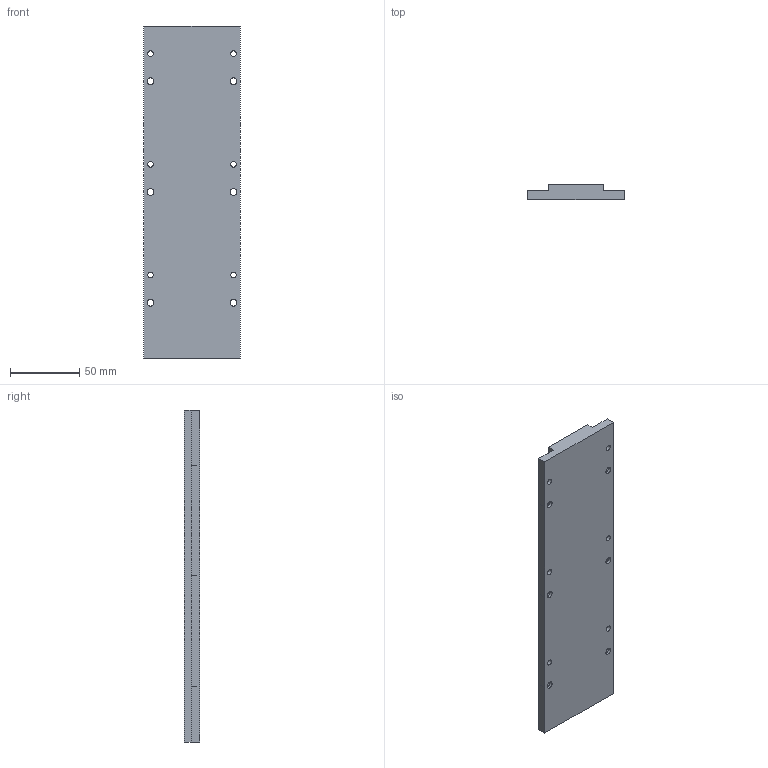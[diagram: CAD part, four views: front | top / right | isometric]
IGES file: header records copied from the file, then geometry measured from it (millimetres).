
Global section: file name: No Iges File Name specified; native system: AutoDesk Inventor R12.0; preprocessor: AutoDesk Inventor Iges Exporter R12.0; date: 20081121.153028; units: inch
Bounding box: 70 x 11.1 x 240 mm (x, y, z)
Volume: 148513.4 mm3; surface area: 41198.7 mm2
Topology: 1 solids, 1 shells, 52 faces, 132 edges, 88 vertices
Faces by surface type: bspline 42, plane 10
